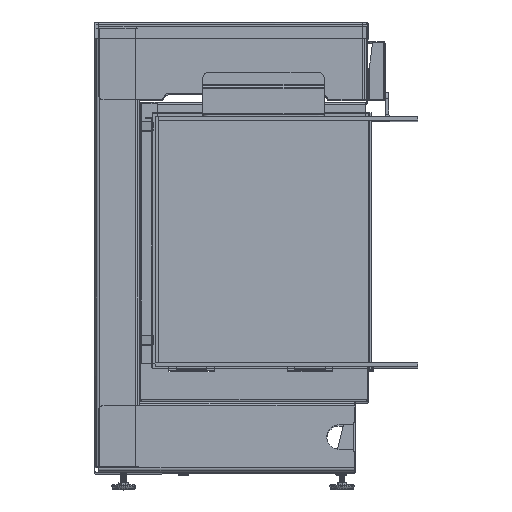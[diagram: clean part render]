
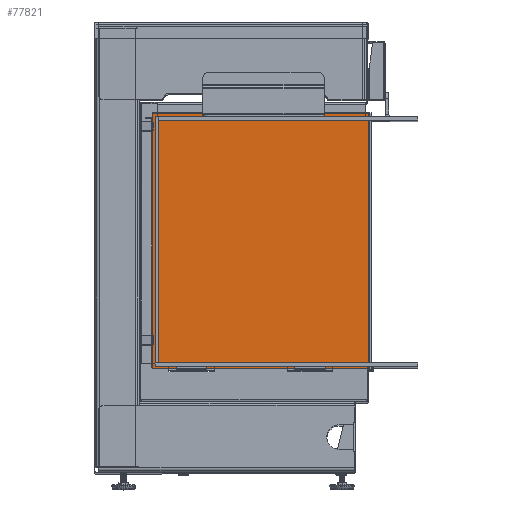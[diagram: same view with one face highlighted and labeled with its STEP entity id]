
A CAD part, top view. The second image highlights one B-rep face of the part: STEP entity #77821.
In plain terms, the highlighted planar face has unit normal (0, 0, 1).
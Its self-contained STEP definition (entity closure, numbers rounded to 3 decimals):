
#1270 = CARTESIAN_POINT ( 'NONE',  ( -217.964, 356.588, 699.799 ) ) ;
#3333 = VECTOR ( 'NONE', #50677, 1000. ) ;
#3947 = FACE_OUTER_BOUND ( 'NONE', #74404, .T. ) ;
#6852 = DIRECTION ( 'NONE',  ( -1., 0., 0. ) ) ;
#7242 = CARTESIAN_POINT ( 'NONE',  ( -217.964, 356.088, 699.799 ) ) ;
#8647 = CARTESIAN_POINT ( 'NONE',  ( 138.536, 356.588, 699.799 ) ) ;
#8912 = EDGE_CURVE ( 'Defeatured_761+Defeatured_7613+Defeatured_7611+Defeatured_7612', #68309, #35263, #26322, .T. ) ;
#12239 = ORIENTED_EDGE ( 'NONE', *, *, #31059, .T. ) ;
#14077 = LINE ( 'NONE', #7242, #48600 ) ;
#15143 = CARTESIAN_POINT ( 'NONE',  ( -217.964, -64.912, 699.799 ) ) ;
#15683 = ORIENTED_EDGE ( 'NONE', *, *, #8912, .T. ) ;
#16799 = VECTOR ( 'NONE', #74986, 1000. ) ;
#19056 = VECTOR ( 'NONE', #22721, 1000. ) ;
#22457 = ORIENTED_EDGE ( 'NONE', *, *, #29119, .T. ) ;
#22721 = DIRECTION ( 'NONE',  ( 1., 0., 0. ) ) ;
#26322 = LINE ( 'NONE', #69437, #3333 ) ;
#29119 = EDGE_CURVE ( 'Defeatured_761+Defeatured_7612+Defeatured_7613+Defeatured_7610', #35263, #39358, #46678, .T. ) ;
#29288 = CARTESIAN_POINT ( 'NONE',  ( 138.536, 356.088, 699.799 ) ) ;
#31059 = EDGE_CURVE ( 'Defeatured_761+Defeatured_7611+Defeatured_7610+Defeatured_7613', #36879, #68309, #14077, .T. ) ;
#35263 = VERTEX_POINT ( 'NONE', #57381 ) ;
#36879 = VERTEX_POINT ( 'NONE', #29288 ) ;
#39043 = LINE ( 'NONE', #8647, #16799 ) ;
#39358 = VERTEX_POINT ( 'NONE', #71430 ) ;
#40323 = PLANE ( 'NONE',  #43191 ) ;
#43191 = AXIS2_PLACEMENT_3D ( 'NONE', #1270, #55230, #6852 ) ;
#46678 = LINE ( 'NONE', #15143, #19056 ) ;
#48600 = VECTOR ( 'NONE', #67200, 1000. ) ;
#50677 = DIRECTION ( 'NONE',  ( 0., -1., 0. ) ) ;
#55230 = DIRECTION ( 'NONE',  ( 0., 0., -1. ) ) ;
#57300 = EDGE_CURVE ( 'Defeatured_761+Defeatured_7610+Defeatured_7612+Defeatured_7611', #39358, #36879, #39043, .T. ) ;
#57381 = CARTESIAN_POINT ( 'NONE',  ( -217.464, -64.912, 699.799 ) ) ;
#64356 = ORIENTED_EDGE ( 'NONE', *, *, #57300, .T. ) ;
#67200 = DIRECTION ( 'NONE',  ( -1., 0., 0. ) ) ;
#68309 = VERTEX_POINT ( 'NONE', #75923 ) ;
#69437 = CARTESIAN_POINT ( 'NONE',  ( -217.464, 356.588, 699.799 ) ) ;
#71430 = CARTESIAN_POINT ( 'NONE',  ( 138.536, -64.912, 699.799 ) ) ;
#74404 = EDGE_LOOP ( 'NONE', ( #12239, #15683, #22457, #64356 ) ) ;
#74986 = DIRECTION ( 'NONE',  ( 0., 1., 0. ) ) ;
#75923 = CARTESIAN_POINT ( 'NONE',  ( -217.464, 356.088, 699.799 ) ) ;
#77821 = ADVANCED_FACE ( 'Defeatured_761', ( #3947 ), #40323, .F. ) ;
